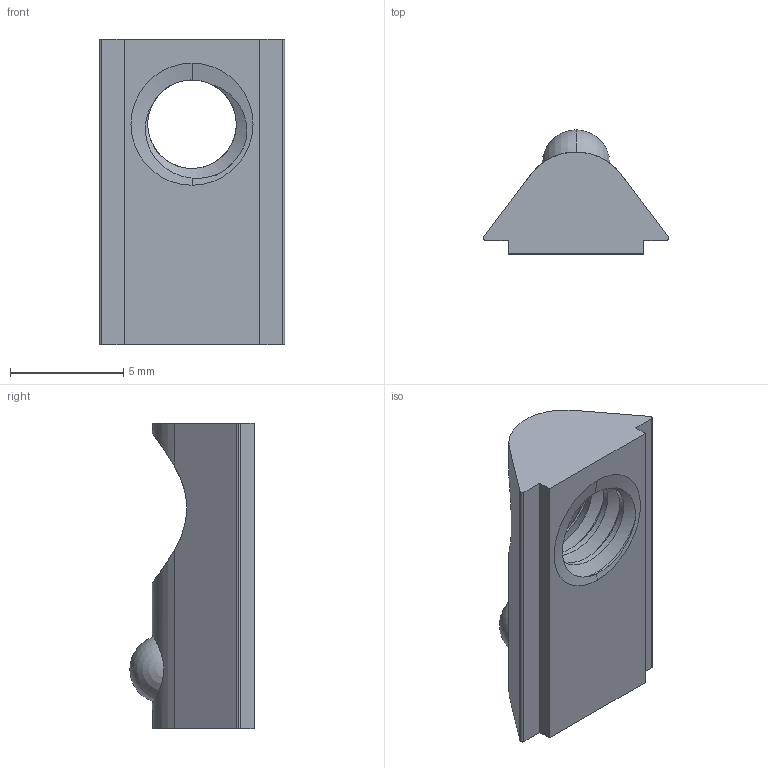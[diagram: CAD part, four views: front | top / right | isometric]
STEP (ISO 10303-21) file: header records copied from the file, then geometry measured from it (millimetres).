
FILE_DESCRIPTION (( 'STEP AP214' ), '1' );
FILE_NAME ('6-4-M6.STEP', '2018-12-28T12:52:08', ( '' ), ( '' ), 'SwSTEP 2.0', 'SolidWorks 2018', '' );
FILE_SCHEMA (( 'AUTOMOTIVE_DESIGN' ));
Length unit declared in the file: millimetre
Products named in the file (3): Moer 6-2-M6; 6-4-M6; Bal 6-2
Assembly tree (2 placements, depth 2):
  6-4-M6
    Moer 6-2-M6
    Bal 6-2
Bounding box: 8.2 x 5.5 x 13.5 mm (x, y, z)
Volume: 257.6 mm3; surface area: 412 mm2
Topology: 2 solids, 2 shells, 40 faces, 114 edges, 74 vertices
Faces by surface type: cylinder 15, plane 10, cone 7, bspline 4, sphere 4
Entity records: 2720 total; most frequent: CARTESIAN_POINT 1709, ORIENTED_EDGE 216, DIRECTION 165, EDGE_CURVE 108, VERTEX_POINT 72, AXIS2_PLACEMENT_3D 62, EDGE_LOOP 42, VECTOR 41
